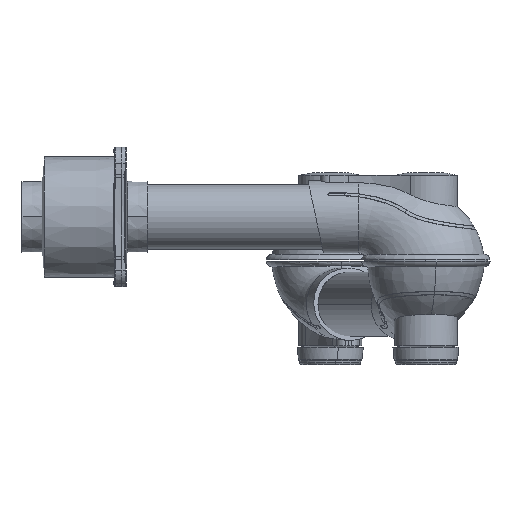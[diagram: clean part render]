
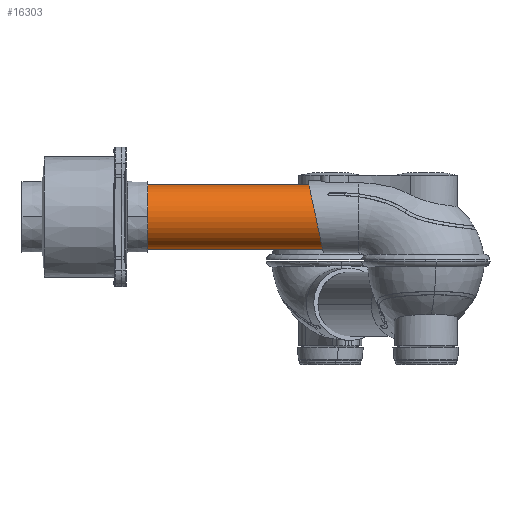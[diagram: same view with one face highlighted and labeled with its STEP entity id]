
A CAD part, left-side view. The second image highlights one B-rep face of the part: STEP entity #16303.
In plain terms, the highlighted cylindrical face has radius 26.3 mm (diameter 52.6 mm), a partial arc.
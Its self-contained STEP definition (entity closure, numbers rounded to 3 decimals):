
#16216=CARTESIAN_POINT('',(0.,0.,0.));
#16217=DIRECTION('',(1.,0.,0.));
#16218=DIRECTION('',(0.,1.,0.));
#16219=AXIS2_PLACEMENT_3D('',#16216,#16217,#16218);
#16224=DIRECTION('',(-1.,0.,0.));
#16225=VECTOR('',#16224,275.);
#16226=CARTESIAN_POINT('',(0.,26.3,0.));
#16227=LINE('',#16226,#16225);
#16231=DIRECTION('',(-1.,0.,0.));
#16232=VECTOR('',#16231,275.);
#16233=CARTESIAN_POINT('',(0.,-26.3,0.));
#16234=LINE('',#16233,#16232);
#16254=CARTESIAN_POINT('',(-275.,0.,0.));
#16255=DIRECTION('',(1.,0.,0.));
#16256=DIRECTION('',(0.,1.,0.));
#16257=AXIS2_PLACEMENT_3D('',#16254,#16255,#16256);
#16262=CARTESIAN_POINT('',(0.,26.3,0.));
#16263=CARTESIAN_POINT('',(-275.,26.3,0.));
#16264=VERTEX_POINT('',#16262);
#16265=VERTEX_POINT('',#16263);
#16266=CARTESIAN_POINT('',(0.,-26.3,0.));
#16267=CARTESIAN_POINT('',(-275.,-26.3,0.));
#16268=VERTEX_POINT('',#16266);
#16269=VERTEX_POINT('',#16267);
#16289=CARTESIAN_POINT('',(-288.75,0.,0.));
#16290=DIRECTION('',(1.,0.,0.));
#16291=DIRECTION('',(0.,-1.,0.));
#16292=AXIS2_PLACEMENT_3D('',#16289,#16290,#16291);
#16293=CYLINDRICAL_SURFACE('',#16292,26.3);
#16295=ORIENTED_EDGE('',*,*,#16294,.F.);
#16296=ORIENTED_EDGE('',*,*,#16275,.T.);
#16298=ORIENTED_EDGE('',*,*,#16297,.T.);
#16300=ORIENTED_EDGE('',*,*,#16299,.F.);
#16301=EDGE_LOOP('',(#16295,#16296,#16298,#16300));
#16302=FACE_OUTER_BOUND('',#16301,.F.);
#16220=CIRCLE('',#16219,26.3);
#16258=CIRCLE('',#16257,26.3);
#16275=EDGE_CURVE('',#16264,#16268,#16220,.T.);
#16294=EDGE_CURVE('',#16264,#16265,#16227,.T.);
#16297=EDGE_CURVE('',#16268,#16269,#16234,.T.);
#16299=EDGE_CURVE('',#16265,#16269,#16258,.T.);
#16303=ADVANCED_FACE('',(#16302),#16293,.T.);
